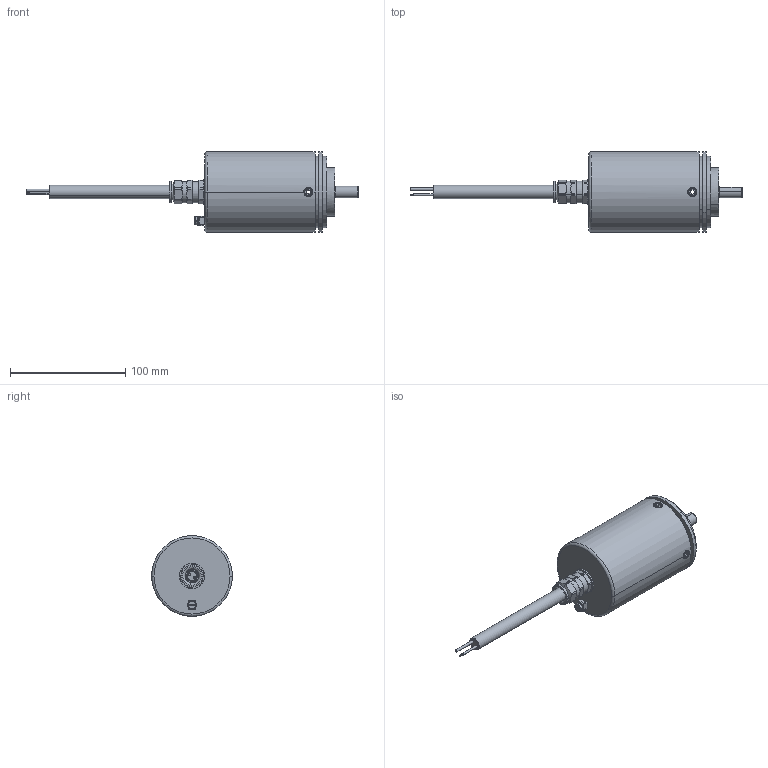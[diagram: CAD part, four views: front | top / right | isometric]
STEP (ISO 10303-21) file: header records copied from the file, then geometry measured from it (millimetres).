
FILE_DESCRIPTION (( 'STEP AP214' ), '1' );
FILE_NAME ('8.7058.1231.XXXX.STEP', '2011-01-27T08:57:00', ( 'admin' ), ( 'Fritz Kübler GmbH' ), 'SwSTEP 2.0', 'SolidWorks 2009', '' );
FILE_SCHEMA (( 'AUTOMOTIVE_DESIGN' ));
Length unit declared in the file: millimetre
Products named in the file (1): 8.7058.1231.XXXX
Bounding box: 287.7 x 70 x 70 mm (x, y, z)
Surface area: 46119.2 mm2 (no closed solid volume)
Topology: 0 solids, 23 shells, 287 faces, 742 edges, 485 vertices
Faces by surface type: cylinder 127, plane 110, cone 33, torus 17
Entity records: 12220 total; most frequent: CARTESIAN_POINT 2001, DIRECTION 1566, ORIENTED_EDGE 1310, EDGE_CURVE 742, AXIS2_PLACEMENT_3D 602, VERTEX_POINT 485, VECTOR 362, LINE 362
